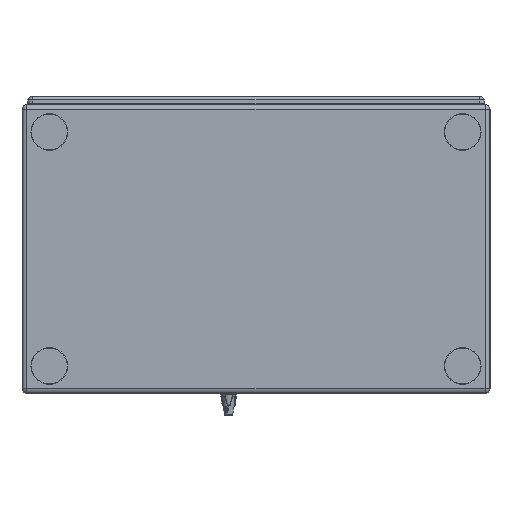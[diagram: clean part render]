
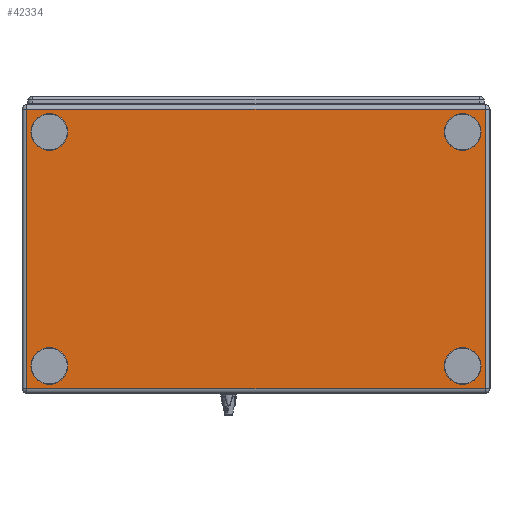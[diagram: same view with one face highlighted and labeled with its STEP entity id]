
A CAD part, front view. The second image highlights one B-rep face of the part: STEP entity #42334.
In plain terms, the highlighted planar face has unit normal (0, -1, 0).
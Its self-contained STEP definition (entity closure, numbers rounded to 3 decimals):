
#3213=FACE_BOUND('',#8623,.T.);
#3214=FACE_BOUND('',#8624,.T.);
#3215=FACE_BOUND('',#8625,.T.);
#3216=FACE_BOUND('',#8626,.T.);
#4112=CIRCLE('',#45368,7.25);
#4114=CIRCLE('',#45372,7.25);
#4116=CIRCLE('',#45376,7.25);
#4117=CIRCLE('',#45377,7.25);
#6035=FACE_OUTER_BOUND('',#8622,.T.);
#8622=EDGE_LOOP('',(#34148,#34149,#34150,#34151));
#8623=EDGE_LOOP('',(#34152));
#8624=EDGE_LOOP('',(#34153));
#8625=EDGE_LOOP('',(#34154));
#8626=EDGE_LOOP('',(#34155));
#11915=LINE('',#92413,#15396);
#11916=LINE('',#92422,#15397);
#11917=LINE('',#92426,#15398);
#11918=LINE('',#92429,#15399);
#15396=VECTOR('',#52739,1000.);
#15397=VECTOR('',#52754,1000.);
#15398=VECTOR('',#52759,1000.);
#15399=VECTOR('',#52764,1000.);
#19227=VERTEX_POINT('',#92411);
#19228=VERTEX_POINT('',#92412);
#19229=VERTEX_POINT('',#92421);
#19230=VERTEX_POINT('',#92425);
#19232=VERTEX_POINT('',#92441);
#19234=VERTEX_POINT('',#92449);
#19236=VERTEX_POINT('',#92457);
#19237=VERTEX_POINT('',#92459);
#24518=EDGE_CURVE('',#19227,#19228,#11915,.T.);
#24523=EDGE_CURVE('',#19229,#19227,#11916,.T.);
#24525=EDGE_CURVE('',#19228,#19230,#11917,.T.);
#24527=EDGE_CURVE('',#19229,#19230,#11918,.T.);
#24534=EDGE_CURVE('',#19232,#19232,#4112,.T.);
#24538=EDGE_CURVE('',#19234,#19234,#4114,.T.);
#24541=EDGE_CURVE('',#19236,#19236,#4116,.T.);
#24542=EDGE_CURVE('',#19237,#19237,#4117,.T.);
#34148=ORIENTED_EDGE('',*,*,#24523,.T.);
#34149=ORIENTED_EDGE('',*,*,#24518,.T.);
#34150=ORIENTED_EDGE('',*,*,#24525,.T.);
#34151=ORIENTED_EDGE('',*,*,#24527,.F.);
#34152=ORIENTED_EDGE('',*,*,#24538,.F.);
#34153=ORIENTED_EDGE('',*,*,#24541,.F.);
#34154=ORIENTED_EDGE('',*,*,#24534,.F.);
#34155=ORIENTED_EDGE('',*,*,#24542,.F.);
#40557=PLANE('',#45375);
#42334=ADVANCED_FACE('',(#6035,#3213,#3214,#3215,#3216),#40557,.T.);
#45368=AXIS2_PLACEMENT_3D('',#92443,#52784,#52785);
#45372=AXIS2_PLACEMENT_3D('',#92451,#52794,#52795);
#45375=AXIS2_PLACEMENT_3D('',#92456,#52801,#52802);
#45376=AXIS2_PLACEMENT_3D('',#92458,#52803,#52804);
#45377=AXIS2_PLACEMENT_3D('',#92460,#52805,#52806);
#52739=DIRECTION('',(0.,0.,1.));
#52754=DIRECTION('',(1.,0.,0.));
#52759=DIRECTION('',(-1.,0.,0.));
#52764=DIRECTION('',(0.,0.,1.));
#52784=DIRECTION('center_axis',(0.,-1.,0.));
#52785=DIRECTION('ref_axis',(0.,0.,-1.));
#52794=DIRECTION('center_axis',(0.,-1.,0.));
#52795=DIRECTION('ref_axis',(0.,0.,-1.));
#52801=DIRECTION('center_axis',(0.,-1.,0.));
#52802=DIRECTION('ref_axis',(1.,0.,0.));
#52803=DIRECTION('center_axis',(0.,-1.,0.));
#52804=DIRECTION('ref_axis',(0.,0.,-1.));
#52805=DIRECTION('center_axis',(0.,-1.,0.));
#52806=DIRECTION('ref_axis',(0.,0.,-1.));
#92411=CARTESIAN_POINT('',(294.,-550.,-244.));
#92412=CARTESIAN_POINT('',(294.,-550.,114.));
#92413=CARTESIAN_POINT('',(294.,-550.,0.));
#92421=CARTESIAN_POINT('',(-294.,-550.,-244.));
#92422=CARTESIAN_POINT('',(0.,-550.,-244.));
#92425=CARTESIAN_POINT('',(-294.,-550.,114.));
#92426=CARTESIAN_POINT('',(0.,-550.,114.));
#92429=CARTESIAN_POINT('',(-294.,-550.,0.));
#92441=CARTESIAN_POINT('',(-265.,-550.,-207.75));
#92443=CARTESIAN_POINT('Origin',(-265.,-550.,-215.));
#92449=CARTESIAN_POINT('',(265.,-550.,92.25));
#92451=CARTESIAN_POINT('Origin',(265.,-550.,85.));
#92456=CARTESIAN_POINT('Origin',(0.,-550.,0.));
#92457=CARTESIAN_POINT('',(265.,-550.,-207.75));
#92458=CARTESIAN_POINT('Origin',(265.,-550.,-215.));
#92459=CARTESIAN_POINT('',(-265.,-550.,92.25));
#92460=CARTESIAN_POINT('Origin',(-265.,-550.,85.));
